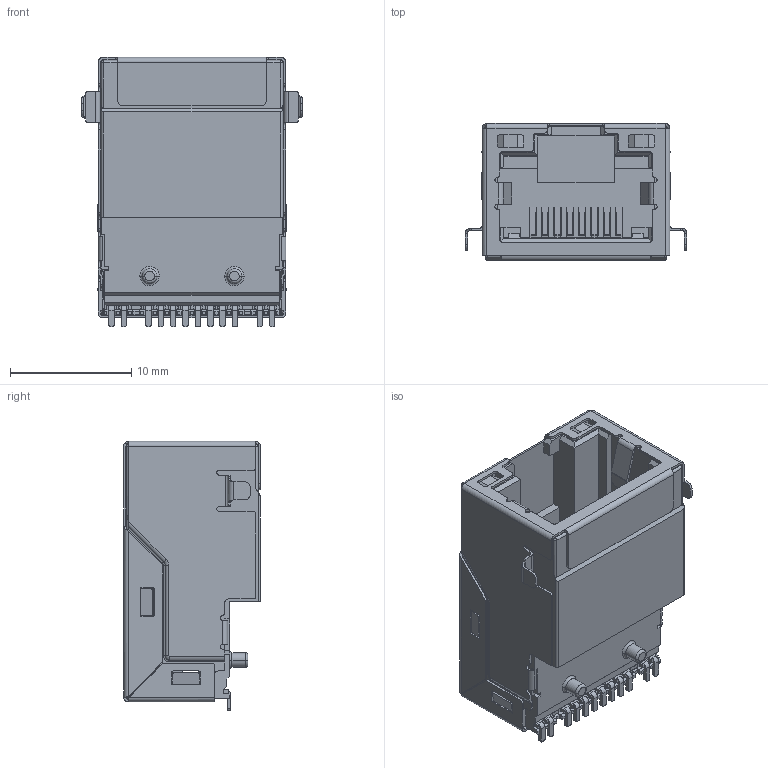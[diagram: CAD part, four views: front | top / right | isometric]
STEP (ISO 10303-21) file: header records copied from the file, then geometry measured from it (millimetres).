
FILE_DESCRIPTION((''),'2;1');
FILE_NAME('AB0001','2024-01-05T14:30:07',('Administrator'),(''),'CREO PARAMETRIC BY PTC INC, 2020053','CREO PARAMETRIC BY PTC INC, 2020053','');
FILE_SCHEMA(('CONFIG_CONTROL_DESIGN'));
Length unit declared in the file: millimetre
Products named in the file (1): AB0001
Bounding box: 18.3 x 11.3 x 22.22 mm (x, y, z)
Volume: 1464.8 mm3; surface area: 4950.7 mm2
Topology: 1 solids, 1 shells, 1439 faces, 4254 edges, 2756 vertices
Faces by surface type: plane 1080, cylinder 311, bspline 24, torus 18, sphere 4, extrusion 2
Entity records: 48492 total; most frequent: CARTESIAN_POINT 9781, ORIENTED_EDGE 8500, DIRECTION 7547, EDGE_CURVE 4250, VECTOR 3517, LINE 3515, VERTEX_POINT 2756, AXIS2_PLACEMENT_3D 2015
